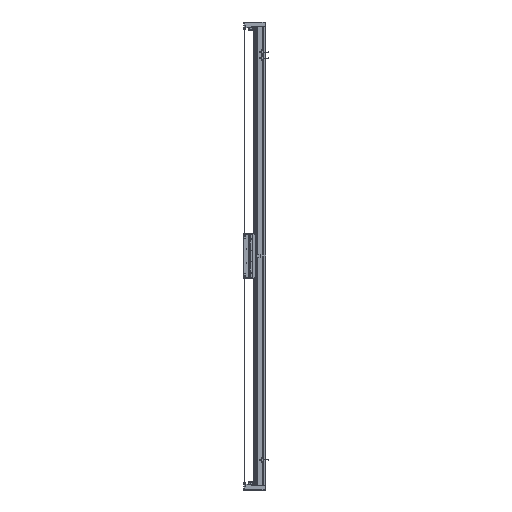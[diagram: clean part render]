
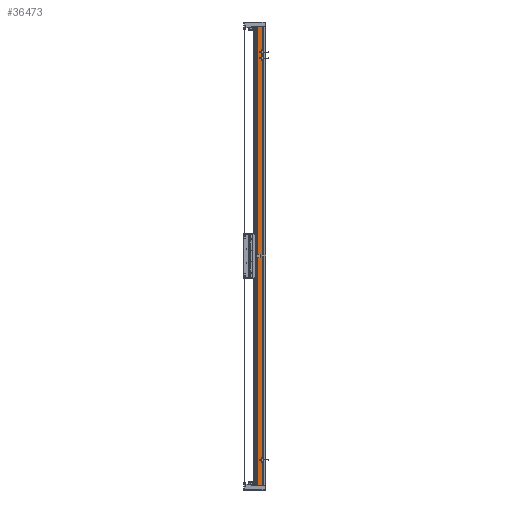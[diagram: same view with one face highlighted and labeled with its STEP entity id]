
A CAD part, left-side view. The second image highlights one B-rep face of the part: STEP entity #36473.
In plain terms, the highlighted planar face has unit normal (-1, 0, 0).
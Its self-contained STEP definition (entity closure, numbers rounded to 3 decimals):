
#2342 = VECTOR ( 'NONE', #52541, 1000. ) ;
#5755 = PLANE ( 'NONE',  #78750 ) ;
#7055 = CARTESIAN_POINT ( 'NONE',  ( -82.5, 36.95, -990. ) ) ;
#9162 = EDGE_CURVE ( 'NONE', #27609, #57374, #111783, .T. ) ;
#10723 = ORIENTED_EDGE ( 'NONE', *, *, #9162, .F. ) ;
#11331 = CARTESIAN_POINT ( 'NONE',  ( -82.5, 36.95, 990. ) ) ;
#13658 = EDGE_CURVE ( 'NONE', #61651, #48523, #53111, .T. ) ;
#15899 = VECTOR ( 'NONE', #103751, 1000. ) ;
#18659 = LINE ( 'NONE', #116735, #46131 ) ;
#18822 = VECTOR ( 'NONE', #65108, 1000. ) ;
#22798 = LINE ( 'NONE', #103163, #15899 ) ;
#27609 = VERTEX_POINT ( 'NONE', #85705 ) ;
#32947 = CARTESIAN_POINT ( 'NONE',  ( -82.5, 36.95, -990. ) ) ;
#36473 = ADVANCED_FACE ( 'NONE', ( #86700 ), #5755, .F. ) ;
#46131 = VECTOR ( 'NONE', #72392, 1000. ) ;
#47682 = EDGE_CURVE ( 'NONE', #27609, #61651, #18659, .T. ) ;
#48523 = VERTEX_POINT ( 'NONE', #116451 ) ;
#49500 = DIRECTION ( 'NONE',  ( 1., 0., 0. ) ) ;
#52541 = DIRECTION ( 'NONE',  ( 0., -1., 0. ) ) ;
#53111 = LINE ( 'NONE', #7055, #2342 ) ;
#57374 = VERTEX_POINT ( 'NONE', #114196 ) ;
#58341 = EDGE_LOOP ( 'NONE', ( #66363, #112893, #10723, #98906 ) ) ;
#61651 = VERTEX_POINT ( 'NONE', #32947 ) ;
#65108 = DIRECTION ( 'NONE',  ( 0., -1., 0. ) ) ;
#66363 = ORIENTED_EDGE ( 'NONE', *, *, #13658, .T. ) ;
#72392 = DIRECTION ( 'NONE',  ( 0., 0., -1. ) ) ;
#74341 = EDGE_CURVE ( 'NONE', #57374, #48523, #22798, .T. ) ;
#78750 = AXIS2_PLACEMENT_3D ( 'NONE', #102140, #49500, #113903 ) ;
#85705 = CARTESIAN_POINT ( 'NONE',  ( -82.5, 36.95, 990. ) ) ;
#86700 = FACE_OUTER_BOUND ( 'NONE', #58341, .T. ) ;
#98906 = ORIENTED_EDGE ( 'NONE', *, *, #47682, .T. ) ;
#102140 = CARTESIAN_POINT ( 'NONE',  ( -82.5, 36.95, 990. ) ) ;
#103163 = CARTESIAN_POINT ( 'NONE',  ( -82.5, 14.45, 990. ) ) ;
#103751 = DIRECTION ( 'NONE',  ( 0., 0., -1. ) ) ;
#111783 = LINE ( 'NONE', #11331, #18822 ) ;
#112893 = ORIENTED_EDGE ( 'NONE', *, *, #74341, .F. ) ;
#113903 = DIRECTION ( 'NONE',  ( 0., 1., 0. ) ) ;
#114196 = CARTESIAN_POINT ( 'NONE',  ( -82.5, 14.45, 990. ) ) ;
#116451 = CARTESIAN_POINT ( 'NONE',  ( -82.5, 14.45, -990. ) ) ;
#116735 = CARTESIAN_POINT ( 'NONE',  ( -82.5, 36.95, 990. ) ) ;
